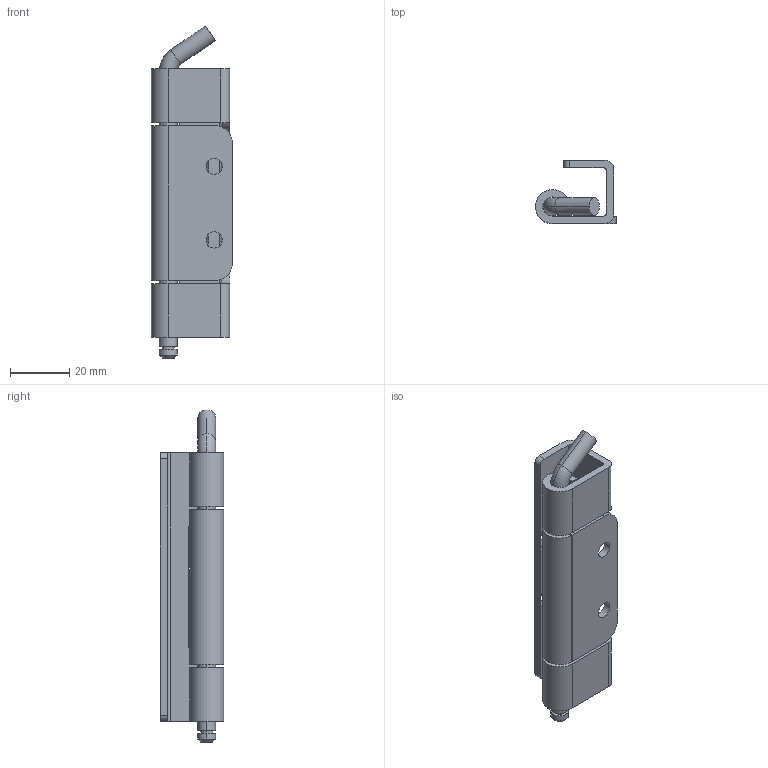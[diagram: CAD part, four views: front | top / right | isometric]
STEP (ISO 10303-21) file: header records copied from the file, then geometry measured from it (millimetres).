
FILE_DESCRIPTION (( 'STEP AP203' ), '1' );
FILE_NAME ('XG02-056-1A.STEP', '2023-12-09T02:24:28', ( '' ), ( '' ), 'SwSTEP 2.0', 'SolidWorks 2020', '' );
FILE_SCHEMA (( 'CONFIG_CONTROL_DESIGN' ));
Length unit declared in the file: millimetre
Products named in the file (1): XG02-056-1A
Bounding box: 27.5 x 21.5 x 112.53 mm (x, y, z)
Volume: 19164.6 mm3; surface area: 16983.8 mm2
Topology: 4 solids, 4 shells, 78 faces, 206 edges, 136 vertices
Faces by surface type: plane 36, cylinder 34, cone 6, torus 2
Entity records: 2531 total; most frequent: DIRECTION 442, CARTESIAN_POINT 433, ORIENTED_EDGE 412, EDGE_CURVE 206, AXIS2_PLACEMENT_3D 161, VERTEX_POINT 136, LINE 120, VECTOR 120
